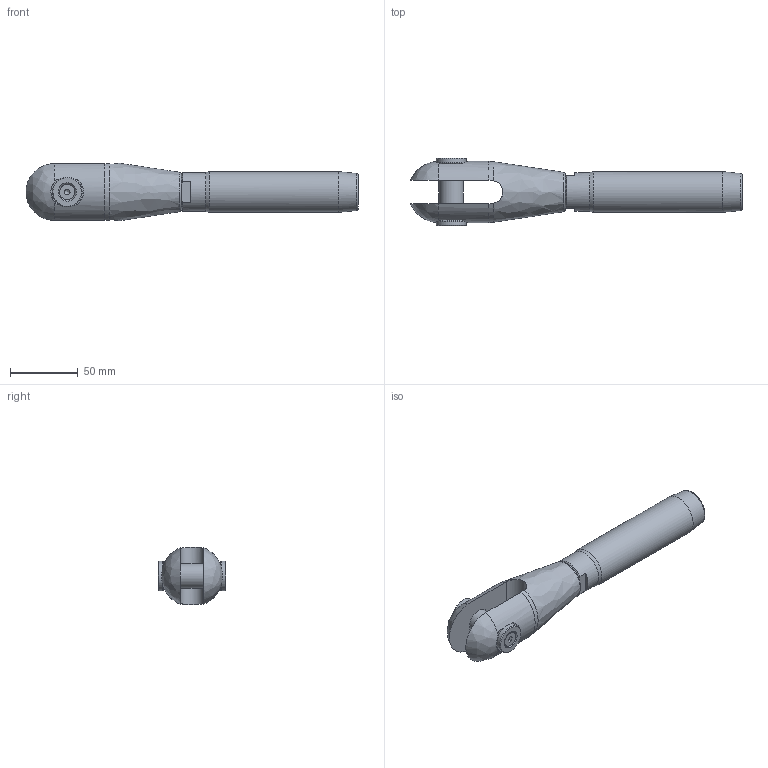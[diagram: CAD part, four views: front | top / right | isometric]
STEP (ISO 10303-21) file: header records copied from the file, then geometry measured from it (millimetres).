
FILE_DESCRIPTION(/* description */ (''),/* implementation_level */ '2;1');
FILE_NAME(/* name */ 'MAC-R 12_1,4418',/* time_stamp */ '2023-05-23T17:52:06+02:00',/* author */ (''),/* organization */ (''),/* preprocessor_version */ 'ST-DEVELOPER v16.5',/* originating_system */ 'Rhino 7.22',/* authorisation */ '');
FILE_SCHEMA (('CONFIG_CONTROL_DESIGN'));
Length unit declared in the file: millimetre
Products named in the file (1): Document
Bounding box: 244.31 x 49.79 x 42.44 mm (x, y, z)
Volume: 193881.5 mm3; surface area: 42585.9 mm2
Topology: 7 solids, 7 shells, 88 faces, 245 edges, 170 vertices
Faces by surface type: plane 36, bspline 28, cylinder 24
Full cylindrical faces by diameter (mm): 4.917 x2, 6 x2, 6.5 x2, 11.34 x2, 17.294 x1, 18 x1, 19 x2, 20 x1, 22 x2, 28.6 x1, 30 x1
Entity records: 3490 total; most frequent: CARTESIAN_POINT 1931, ORIENTED_EDGE 480, EDGE_CURVE 240, VERTEX_POINT 170, EDGE_LOOP 100, B_SPLINE_CURVE_WITH_KNOTS 97, ADVANCED_FACE 88, FACE_OUTER_BOUND 88
